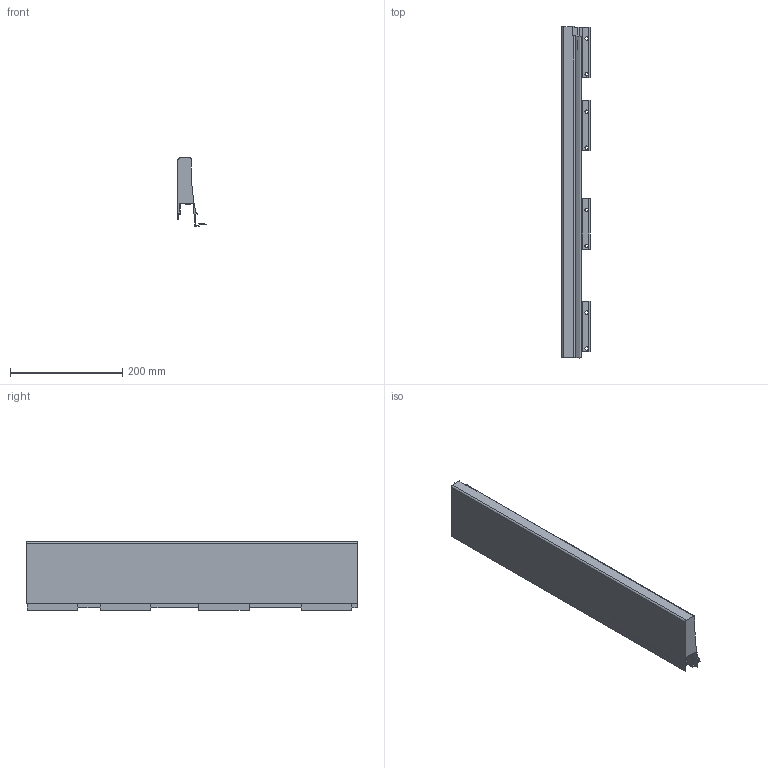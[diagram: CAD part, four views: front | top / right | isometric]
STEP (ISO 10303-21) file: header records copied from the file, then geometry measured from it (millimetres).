
FILE_DESCRIPTION (( 'STEP AP214' ), '1' );
FILE_NAME ('_XP Agantis Dekorseite H127 NL600 LI.step', '2010-07-08T06:22:17', ( 'grass' ), ( '' ), 'SwSTEP 2.0', 'SolidWorks 2010', '' );
FILE_SCHEMA (( 'AUTOMOTIVE_DESIGN' ));
Length unit declared in the file: millimetre
Products named in the file (1): _XP Agantis Dekorseite H127 NL600 LI
Bounding box: 50.01 x 591.5 x 121.5 mm (x, y, z)
Volume: 1295983.9 mm3; surface area: 239709 mm2
Topology: 1 solids, 1 shells, 175 faces, 511 edges, 333 vertices
Faces by surface type: plane 142, cylinder 33
Entity records: 5871 total; most frequent: CARTESIAN_POINT 1107, ORIENTED_EDGE 1022, DIRECTION 926, EDGE_CURVE 511, VECTOR 444, LINE 444, VERTEX_POINT 333, AXIS2_PLACEMENT_3D 241
